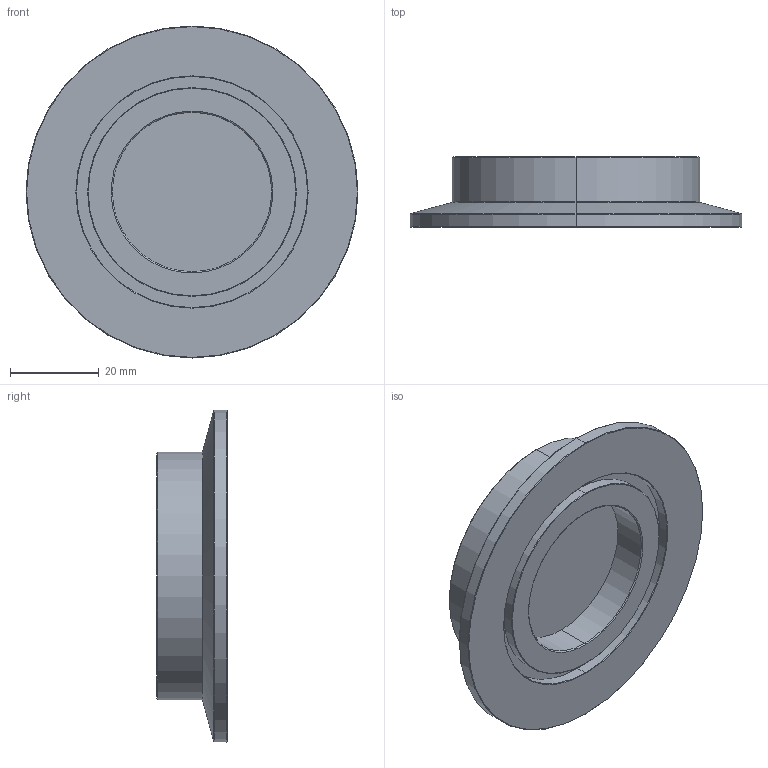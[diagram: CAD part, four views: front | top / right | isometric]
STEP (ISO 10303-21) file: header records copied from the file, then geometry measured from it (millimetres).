
FILE_DESCRIPTION (( 'STEP AP203' ), '1' );
FILE_NAME ('112664.stp', '2022-04-27T21:37:54', ( '' ), ( '' ), 'SwSTEP 2.0', 'SolidWorks 2012', '' );
FILE_SCHEMA (( 'CONFIG_CONTROL_DESIGN' ));
Length unit declared in the file: inch
Products named in the file (1): 112664
Bounding box: 75 x 15.88 x 75 mm (x, y, z)
Volume: 29307.1 mm3; surface area: 15112 mm2
Topology: 1 solids, 1 shells, 44 faces, 90 edges, 54 vertices
Faces by surface type: cone 16, cylinder 14, plane 8, bspline 6
Entity records: 1311 total; most frequent: CARTESIAN_POINT 291, DIRECTION 220, ORIENTED_EDGE 180, AXIS2_PLACEMENT_3D 95, EDGE_CURVE 90, CIRCLE 56, VERTEX_POINT 54, EDGE_LOOP 50
